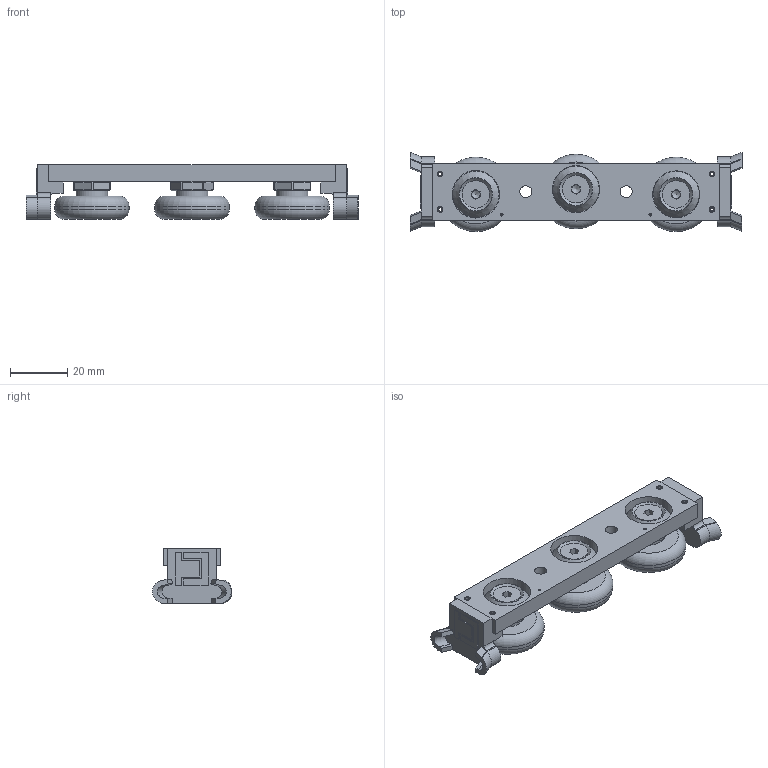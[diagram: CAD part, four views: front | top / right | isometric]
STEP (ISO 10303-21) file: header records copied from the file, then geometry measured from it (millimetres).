
FILE_DESCRIPTION (( 'STEP AP214' ), '1' );
FILE_NAME ('RLS33-3-A.STEP', '2022-02-01T10:23:19', ( '' ), ( '' ), 'SwSTEP 2.0', 'SolidWorks 2019', '' );
FILE_SCHEMA (( 'AUTOMOTIVE_DESIGN' ));
Length unit declared in the file: millimetre
Products named in the file (8): DIN 7991 - M5 x 12 - A2-70_DIN 7991 - M5 x 12 - A2-70; 39042; 11686_01; RLS33-3-A; 38617; 32425; 32426; 11683_01
Assembly tree (16 placements, depth 2):
  RLS33-3-A
    11683_01
    32425  x2
    32426
    11686_01  x3
    DIN 7991 - M5 x 12 - A2-70_DIN 7991 - M5 x 12 - A2-70  x3
    38617  x2
    39042  x4
Bounding box: 116 x 27.67 x 19 mm (x, y, z)
Volume: 28476.4 mm3; surface area: 18003 mm2
Topology: 16 solids, 16 shells, 401 faces, 901 edges, 544 vertices
Faces by surface type: plane 288, cylinder 65, cone 27, bspline 12, torus 9
Full cylindrical faces by diameter (mm): 1 x2, 2 x4, 4.2 x5, 5 x3, 9 x6, 9.64 x3, 11 x3, 16 x3, 16.4 x2, 16.6 x1, 26 x3
Entity records: 6194 total; most frequent: CARTESIAN_POINT 1023, DIRECTION 997, ORIENTED_EDGE 878, EDGE_CURVE 439, AXIS2_PLACEMENT_3D 333, LINE 331, VECTOR 331, EDGE_LOOP 292
